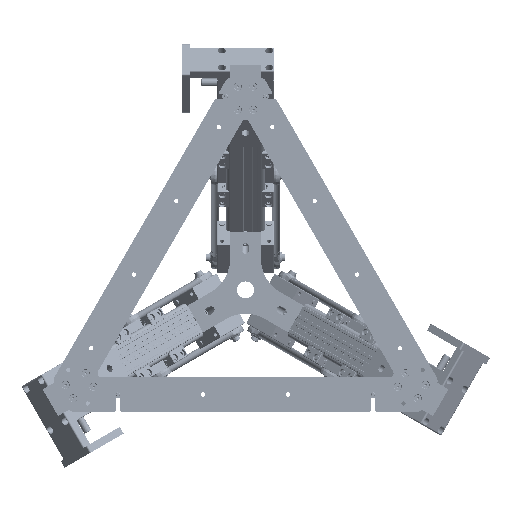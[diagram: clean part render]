
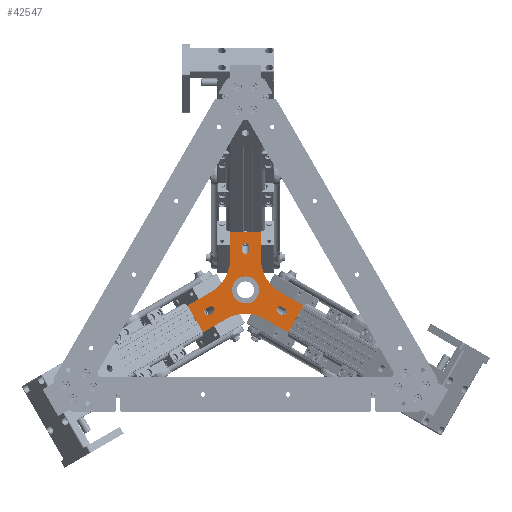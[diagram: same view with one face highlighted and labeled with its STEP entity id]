
A CAD part, front view. The second image highlights one B-rep face of the part: STEP entity #42547.
In plain terms, the highlighted planar face has unit normal (0, -1, 0) as drawn and (0, 0, -1) by its records, which use the part's own axes.
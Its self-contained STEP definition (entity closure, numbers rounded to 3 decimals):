
#874=ELLIPSE('',#47883,7.071,5.);
#875=ELLIPSE('',#47884,7.071,5.);
#876=ELLIPSE('',#47892,7.071,5.);
#877=ELLIPSE('',#47893,7.071,5.);
#878=ELLIPSE('',#47901,7.071,5.);
#879=ELLIPSE('',#47902,7.071,5.);
#2104=FACE_BOUND('',#8611,.T.);
#2105=FACE_BOUND('',#8612,.T.);
#2106=FACE_BOUND('',#8613,.T.);
#2107=FACE_BOUND('',#8614,.T.);
#3139=PLANE('',#47905);
#6062=FACE_OUTER_BOUND('',#8610,.T.);
#8610=EDGE_LOOP('',(#38371,#38372,#38373,#38374,#38375,#38376,#38377,#38378,
#38379,#38380,#38381,#38382));
#8611=EDGE_LOOP('',(#38383,#38384));
#8612=EDGE_LOOP('',(#38385,#38386));
#8613=EDGE_LOOP('',(#38387,#38388));
#8614=EDGE_LOOP('',(#38389));
#12014=LINE('',#74978,#15305);
#12015=LINE('',#74980,#15306);
#12016=LINE('',#74982,#15307);
#12017=LINE('',#74986,#15308);
#12018=LINE('',#74988,#15309);
#12019=LINE('',#74990,#15310);
#12020=LINE('',#74994,#15311);
#12021=LINE('',#74996,#15312);
#12022=LINE('',#74998,#15313);
#15305=VECTOR('',#59240,10.);
#15306=VECTOR('',#59241,10.);
#15307=VECTOR('',#59242,10.);
#15308=VECTOR('',#59245,10.);
#15309=VECTOR('',#59246,10.);
#15310=VECTOR('',#59247,10.);
#15311=VECTOR('',#59250,10.);
#15312=VECTOR('',#59251,10.);
#15313=VECTOR('',#59252,10.);
#17625=CIRCLE('',#47906,49.282);
#17626=CIRCLE('',#47907,49.282);
#17627=CIRCLE('',#47908,49.282);
#17628=CIRCLE('',#47909,17.5);
#21410=VERTEX_POINT('',#74932);
#21411=VERTEX_POINT('',#74933);
#21416=VERTEX_POINT('',#74949);
#21417=VERTEX_POINT('',#74950);
#21422=VERTEX_POINT('',#74966);
#21423=VERTEX_POINT('',#74967);
#21425=VERTEX_POINT('',#74976);
#21426=VERTEX_POINT('',#74977);
#21427=VERTEX_POINT('',#74979);
#21428=VERTEX_POINT('',#74981);
#21429=VERTEX_POINT('',#74983);
#21430=VERTEX_POINT('',#74985);
#21431=VERTEX_POINT('',#74987);
#21432=VERTEX_POINT('',#74989);
#21433=VERTEX_POINT('',#74991);
#21434=VERTEX_POINT('',#74993);
#21435=VERTEX_POINT('',#74995);
#21436=VERTEX_POINT('',#74997);
#21437=VERTEX_POINT('',#75000);
#27184=EDGE_CURVE('',#21410,#21411,#874,.T.);
#27185=EDGE_CURVE('',#21411,#21410,#875,.T.);
#27192=EDGE_CURVE('',#21416,#21417,#876,.T.);
#27193=EDGE_CURVE('',#21417,#21416,#877,.T.);
#27200=EDGE_CURVE('',#21422,#21423,#878,.T.);
#27201=EDGE_CURVE('',#21423,#21422,#879,.T.);
#27205=EDGE_CURVE('',#21425,#21426,#12014,.T.);
#27206=EDGE_CURVE('',#21427,#21425,#12015,.T.);
#27207=EDGE_CURVE('',#21428,#21427,#12016,.T.);
#27208=EDGE_CURVE('',#21429,#21428,#17625,.T.);
#27209=EDGE_CURVE('',#21430,#21429,#12017,.T.);
#27210=EDGE_CURVE('',#21431,#21430,#12018,.T.);
#27211=EDGE_CURVE('',#21432,#21431,#12019,.T.);
#27212=EDGE_CURVE('',#21433,#21432,#17626,.T.);
#27213=EDGE_CURVE('',#21434,#21433,#12020,.T.);
#27214=EDGE_CURVE('',#21435,#21434,#12021,.T.);
#27215=EDGE_CURVE('',#21436,#21435,#12022,.T.);
#27216=EDGE_CURVE('',#21426,#21436,#17627,.T.);
#27217=EDGE_CURVE('',#21437,#21437,#17628,.T.);
#38371=ORIENTED_EDGE('',*,*,#27205,.F.);
#38372=ORIENTED_EDGE('',*,*,#27206,.F.);
#38373=ORIENTED_EDGE('',*,*,#27207,.F.);
#38374=ORIENTED_EDGE('',*,*,#27208,.F.);
#38375=ORIENTED_EDGE('',*,*,#27209,.F.);
#38376=ORIENTED_EDGE('',*,*,#27210,.F.);
#38377=ORIENTED_EDGE('',*,*,#27211,.F.);
#38378=ORIENTED_EDGE('',*,*,#27212,.F.);
#38379=ORIENTED_EDGE('',*,*,#27213,.F.);
#38380=ORIENTED_EDGE('',*,*,#27214,.F.);
#38381=ORIENTED_EDGE('',*,*,#27215,.F.);
#38382=ORIENTED_EDGE('',*,*,#27216,.F.);
#38383=ORIENTED_EDGE('',*,*,#27184,.T.);
#38384=ORIENTED_EDGE('',*,*,#27185,.T.);
#38385=ORIENTED_EDGE('',*,*,#27192,.T.);
#38386=ORIENTED_EDGE('',*,*,#27193,.T.);
#38387=ORIENTED_EDGE('',*,*,#27200,.T.);
#38388=ORIENTED_EDGE('',*,*,#27201,.T.);
#38389=ORIENTED_EDGE('',*,*,#27217,.F.);
#42547=ADVANCED_FACE('',(#6062,#2104,#2105,#2106,#2107),#3139,.F.);
#47883=AXIS2_PLACEMENT_3D('',#74934,#59188,#59189);
#47884=AXIS2_PLACEMENT_3D('',#74935,#59190,#59191);
#47892=AXIS2_PLACEMENT_3D('',#74951,#59208,#59209);
#47893=AXIS2_PLACEMENT_3D('',#74952,#59210,#59211);
#47901=AXIS2_PLACEMENT_3D('',#74968,#59228,#59229);
#47902=AXIS2_PLACEMENT_3D('',#74969,#59230,#59231);
#47905=AXIS2_PLACEMENT_3D('',#74975,#59238,#59239);
#47906=AXIS2_PLACEMENT_3D('',#74984,#59243,#59244);
#47907=AXIS2_PLACEMENT_3D('',#74992,#59248,#59249);
#47908=AXIS2_PLACEMENT_3D('',#74999,#59253,#59254);
#47909=AXIS2_PLACEMENT_3D('',#75001,#59255,#59256);
#59188=DIRECTION('center_axis',(0.,0.,1.));
#59189=DIRECTION('ref_axis',(0.866,-0.5,0.));
#59190=DIRECTION('center_axis',(0.,0.,1.));
#59191=DIRECTION('ref_axis',(0.866,-0.5,0.));
#59208=DIRECTION('center_axis',(0.,0.,1.));
#59209=DIRECTION('ref_axis',(-0.866,-0.5,0.));
#59210=DIRECTION('center_axis',(0.,0.,1.));
#59211=DIRECTION('ref_axis',(-0.866,-0.5,0.));
#59228=DIRECTION('center_axis',(0.,0.,1.));
#59229=DIRECTION('ref_axis',(0.,1.,0.));
#59230=DIRECTION('center_axis',(0.,0.,1.));
#59231=DIRECTION('ref_axis',(0.,1.,0.));
#59238=DIRECTION('center_axis',(0.,0.,1.));
#59239=DIRECTION('ref_axis',(1.,0.,0.));
#59240=DIRECTION('',(0.866,0.5,0.));
#59241=DIRECTION('',(0.5,-0.866,0.));
#59242=DIRECTION('',(-0.866,-0.5,0.));
#59243=DIRECTION('center_axis',(0.,0.,-1.));
#59244=DIRECTION('ref_axis',(0.5,-0.866,0.));
#59245=DIRECTION('',(0.,-1.,0.));
#59246=DIRECTION('',(-1.,0.,0.));
#59247=DIRECTION('',(0.,1.,0.));
#59248=DIRECTION('center_axis',(0.,0.,-1.));
#59249=DIRECTION('ref_axis',(-1.,0.,0.));
#59250=DIRECTION('',(-0.866,0.5,0.));
#59251=DIRECTION('',(0.5,0.866,0.));
#59252=DIRECTION('',(0.866,-0.5,0.));
#59253=DIRECTION('center_axis',(0.,0.,-1.));
#59254=DIRECTION('ref_axis',(0.5,0.866,0.));
#59255=DIRECTION('center_axis',(0.,0.,-1.));
#59256=DIRECTION('ref_axis',(-1.,0.,0.));
#74932=CARTESIAN_POINT('',(40.457,-23.358,15.));
#74933=CARTESIAN_POINT('',(49.081,-22.563,15.));
#74934=CARTESIAN_POINT('Origin',(46.581,-26.893,15.));
#74935=CARTESIAN_POINT('Origin',(46.581,-26.893,15.));
#74949=CARTESIAN_POINT('',(-40.457,-23.358,15.));
#74950=CARTESIAN_POINT('',(-44.081,-31.224,15.));
#74951=CARTESIAN_POINT('Origin',(-46.581,-26.893,15.));
#74952=CARTESIAN_POINT('Origin',(-46.581,-26.893,15.));
#74966=CARTESIAN_POINT('',(0.,46.716,15.));
#74967=CARTESIAN_POINT('',(-5.,53.787,15.));
#74968=CARTESIAN_POINT('Origin',(0.,53.787,15.));
#74969=CARTESIAN_POINT('Origin',(0.,53.787,15.));
#74975=CARTESIAN_POINT('Origin',(0.,0.,15.));
#74976=CARTESIAN_POINT('',(-54.952,-54.821,15.));
#74977=CARTESIAN_POINT('',(-24.641,-37.321,15.));
#74978=CARTESIAN_POINT('',(-22.476,-36.071,15.));
#74979=CARTESIAN_POINT('',(-74.952,-20.179,15.));
#74980=CARTESIAN_POINT('',(-69.952,-28.84,15.));
#74981=CARTESIAN_POINT('',(-44.641,-2.679,15.));
#74982=CARTESIAN_POINT('',(-27.321,7.321,15.));
#74983=CARTESIAN_POINT('',(-20.,40.,15.));
#74984=CARTESIAN_POINT('Origin',(-69.282,40.,15.));
#74985=CARTESIAN_POINT('',(-20.,75.,15.));
#74986=CARTESIAN_POINT('',(-20.,37.5,15.));
#74987=CARTESIAN_POINT('',(20.,75.,15.));
#74988=CARTESIAN_POINT('',(10.,75.,15.));
#74989=CARTESIAN_POINT('',(20.,40.,15.));
#74990=CARTESIAN_POINT('',(20.,20.,15.));
#74991=CARTESIAN_POINT('',(44.641,-2.679,15.));
#74992=CARTESIAN_POINT('Origin',(69.282,40.,15.));
#74993=CARTESIAN_POINT('',(74.952,-20.179,15.));
#74994=CARTESIAN_POINT('',(42.476,-1.429,15.));
#74995=CARTESIAN_POINT('',(54.952,-54.821,15.));
#74996=CARTESIAN_POINT('',(59.952,-46.16,15.));
#74997=CARTESIAN_POINT('',(24.641,-37.321,15.));
#74998=CARTESIAN_POINT('',(7.321,-27.321,15.));
#74999=CARTESIAN_POINT('Origin',(0.,-80.,
15.));
#75000=CARTESIAN_POINT('',(17.5,0.,15.));
#75001=CARTESIAN_POINT('Origin',(0.,0.,15.));
